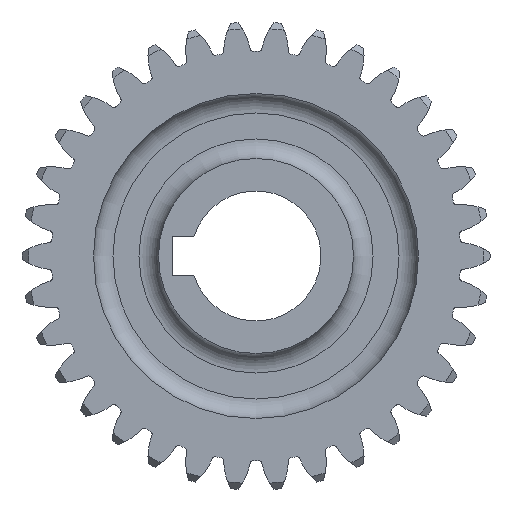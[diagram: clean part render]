
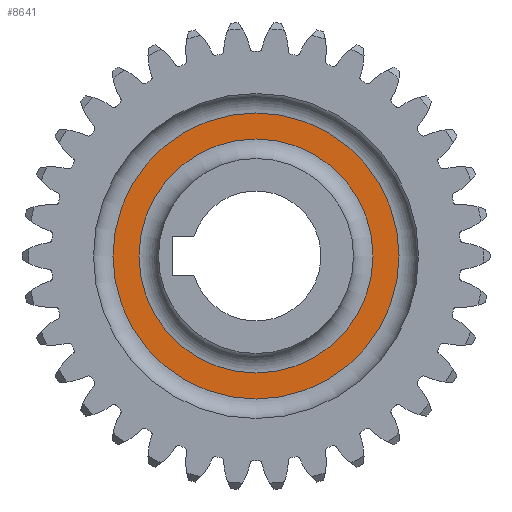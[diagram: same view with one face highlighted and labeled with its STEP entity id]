
A CAD part, left-side view. The second image highlights one B-rep face of the part: STEP entity #8641.
In plain terms, the highlighted planar face has unit normal (-1, 0, 0).
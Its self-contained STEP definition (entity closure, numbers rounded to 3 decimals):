
#698=FACE_BOUND($,#2433,.T.);
#1499=CIRCLE($,#9900,18.);
#1500=CIRCLE($,#9902,22.);
#1963=FACE_OUTER_BOUND($,#2432,.T.);
#2432=EDGE_LOOP($,(#7616));
#2433=EDGE_LOOP($,(#7617));
#4056=VERTEX_POINT($,#16200);
#4057=VERTEX_POINT($,#16203);
#5426=EDGE_CURVE($,#4056,#4056,#1499,.T.);
#5427=EDGE_CURVE($,#4057,#4057,#1500,.T.);
#7616=ORIENTED_EDGE($,*,*,#5427,.F.);
#7617=ORIENTED_EDGE($,*,*,#5426,.F.);
#8180=PLANE($,#9901);
#8641=ADVANCED_FACE($,(#1963,#698),#8180,.T.);
#9900=AXIS2_PLACEMENT_3D($,#16201,#12758,#12759);
#9901=AXIS2_PLACEMENT_3D($,#16202,#12760,#12761);
#9902=AXIS2_PLACEMENT_3D($,#16204,#12762,#12763);
#12758=DIRECTION('center_axis',(-1.,0.,0.));
#12759=DIRECTION('ref_axis',(0.,-1.,0.));
#12760=DIRECTION('center_axis',(-1.,0.,0.));
#12761=DIRECTION('ref_axis',(0.,0.,1.));
#12762=DIRECTION('center_axis',(1.,0.,0.));
#12763=DIRECTION('ref_axis',(0.,-1.,0.));
#16200=CARTESIAN_POINT('',(17.,18.,0.));
#16201=CARTESIAN_POINT('Origin',(17.,0.,0.));
#16202=CARTESIAN_POINT('Origin',(17.,25.,0.));
#16203=CARTESIAN_POINT('',(17.,22.,0.));
#16204=CARTESIAN_POINT('Origin',(17.,0.,0.));
